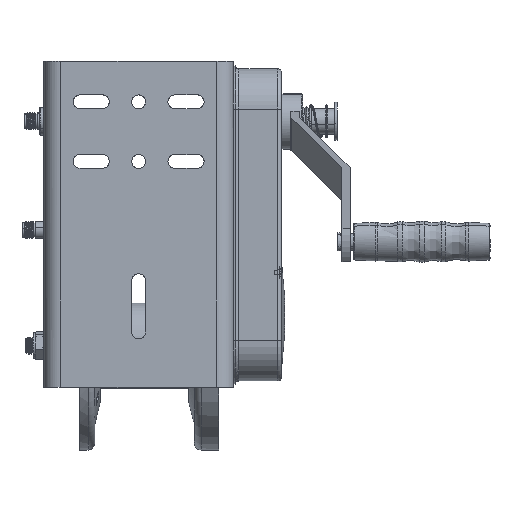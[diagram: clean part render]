
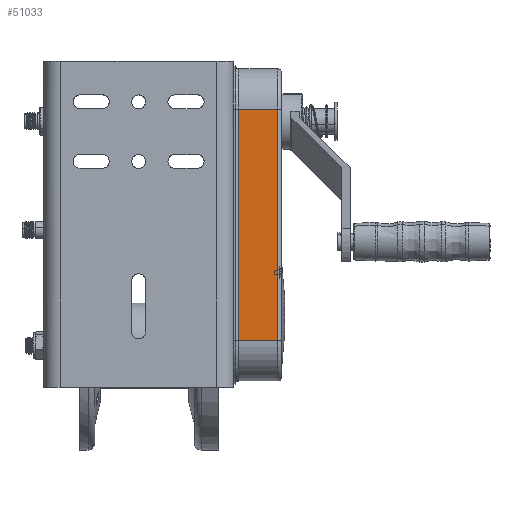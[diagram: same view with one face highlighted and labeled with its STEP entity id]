
A CAD part, front view. The second image highlights one B-rep face of the part: STEP entity #51033.
In plain terms, the highlighted planar face has unit normal (0, -1, 0).
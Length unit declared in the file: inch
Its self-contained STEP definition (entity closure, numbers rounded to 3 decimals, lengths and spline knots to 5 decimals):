
#3653 = ORIENTED_EDGE ( 'NONE', *, *, #92663, .T. ) ;
#19769 = CARTESIAN_POINT ( 'NONE',  ( 1.51107, -1.39446, 3.37195 ) ) ;
#27433 = CARTESIAN_POINT ( 'NONE',  ( 1.51107, -1.39446, -1.14905 ) ) ;
#31268 = DIRECTION ( 'NONE',  ( 0., -1., 0. ) ) ;
#35896 = EDGE_CURVE ( 'NONE', #146502, #42346, #86270, .T. ) ;
#42346 = VERTEX_POINT ( 'NONE', #19769 ) ;
#47996 = VERTEX_POINT ( 'NONE', #84129 ) ;
#51033 = ADVANCED_FACE ( 'NONE', ( #125434 ), #174582, .T. ) ;
#51709 = CARTESIAN_POINT ( 'NONE',  ( 1.89171, -1.39446, 3.37195 ) ) ;
#54668 = B_SPLINE_CURVE_WITH_KNOTS ( 'NONE', 3,
 ( #170638, #154942, #142320, #60706 ),
 .UNSPECIFIED., .F., .F.,
 ( 4, 4 ),
 ( 0., 1. ),
 .UNSPECIFIED. ) ;
#60706 = CARTESIAN_POINT ( 'NONE',  ( 2.65299, -1.39446, -3.40955 ) ) ;
#64400 = EDGE_LOOP ( 'NONE', ( #3653, #66425, #106105, #152451 ) ) ;
#66425 = ORIENTED_EDGE ( 'NONE', *, *, #94560, .F. ) ;
#71534 = CARTESIAN_POINT ( 'NONE',  ( 2.27235, -1.39446, 3.37195 ) ) ;
#71699 = VERTEX_POINT ( 'NONE', #80690 ) ;
#80690 = CARTESIAN_POINT ( 'NONE',  ( 1.51107, -1.39446, -3.40955 ) ) ;
#83764 = CARTESIAN_POINT ( 'NONE',  ( 2.27235, -1.39446, -3.40955 ) ) ;
#84129 = CARTESIAN_POINT ( 'NONE',  ( 2.65299, -1.39446, -3.40955 ) ) ;
#85191 = CARTESIAN_POINT ( 'NONE',  ( 2.65299, -1.39446, 3.37195 ) ) ;
#85834 = CARTESIAN_POINT ( 'NONE',  ( 2.65299, -1.39446, -3.40955 ) ) ;
#86270 = B_SPLINE_CURVE_WITH_KNOTS ( 'NONE', 3,
 ( #85191, #71534, #51709, #135384 ),
 .UNSPECIFIED., .F., .F.,
 ( 4, 4 ),
 ( 0., 1. ),
 .UNSPECIFIED. ) ;
#89237 = EDGE_CURVE ( 'NONE', #42346, #71699, #150844, .T. ) ;
#92663 = EDGE_CURVE ( 'NONE', #71699, #47996, #162339, .T. ) ;
#94032 = CARTESIAN_POINT ( 'NONE',  ( 2.65299, -1.39446, -3.40955 ) ) ;
#94560 = EDGE_CURVE ( 'NONE', #146502, #47996, #54668, .T. ) ;
#101550 = CARTESIAN_POINT ( 'NONE',  ( 1.89171, -1.39446, -3.40955 ) ) ;
#106105 = ORIENTED_EDGE ( 'NONE', *, *, #35896, .T. ) ;
#125434 = FACE_OUTER_BOUND ( 'NONE', #64400, .T. ) ;
#135384 = CARTESIAN_POINT ( 'NONE',  ( 1.51107, -1.39446, 3.37195 ) ) ;
#138297 = CARTESIAN_POINT ( 'NONE',  ( 1.51107, -1.39446, -3.40955 ) ) ;
#142320 = CARTESIAN_POINT ( 'NONE',  ( 2.65299, -1.39446, -1.14905 ) ) ;
#146502 = VERTEX_POINT ( 'NONE', #170904 ) ;
#149673 = CARTESIAN_POINT ( 'NONE',  ( 1.51107, -1.39446, -3.40955 ) ) ;
#150844 = B_SPLINE_CURVE_WITH_KNOTS ( 'NONE', 3,
 ( #186439, #152989, #27433, #138297 ),
 .UNSPECIFIED., .F., .F.,
 ( 4, 4 ),
 ( 0., 1. ),
 .UNSPECIFIED. ) ;
#152451 = ORIENTED_EDGE ( 'NONE', *, *, #89237, .T. ) ;
#152989 = CARTESIAN_POINT ( 'NONE',  ( 1.51107, -1.39446, 1.11145 ) ) ;
#154942 = CARTESIAN_POINT ( 'NONE',  ( 2.65299, -1.39446, 1.11145 ) ) ;
#155430 = AXIS2_PLACEMENT_3D ( 'NONE', #94032, #31268, #158896 ) ;
#158896 = DIRECTION ( 'NONE',  ( 0., 0., -1. ) ) ;
#162339 = B_SPLINE_CURVE_WITH_KNOTS ( 'NONE', 3,
 ( #149673, #101550, #83764, #85834 ),
 .UNSPECIFIED., .F., .F.,
 ( 4, 4 ),
 ( 0., 1. ),
 .UNSPECIFIED. ) ;
#170638 = CARTESIAN_POINT ( 'NONE',  ( 2.65299, -1.39446, 3.37195 ) ) ;
#170904 = CARTESIAN_POINT ( 'NONE',  ( 2.65299, -1.39446, 3.37195 ) ) ;
#174582 = PLANE ( 'NONE',  #155430 ) ;
#186439 = CARTESIAN_POINT ( 'NONE',  ( 1.51107, -1.39446, 3.37195 ) ) ;
